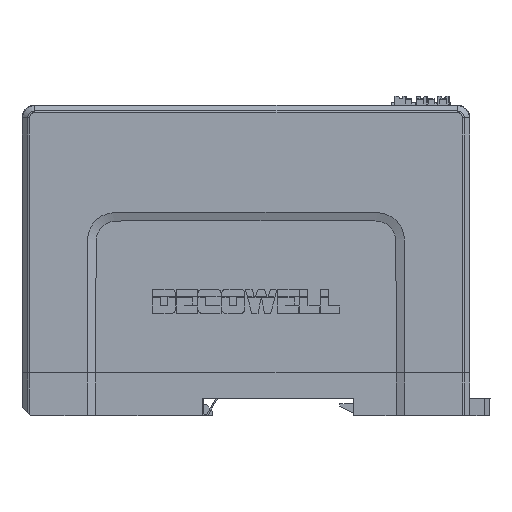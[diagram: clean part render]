
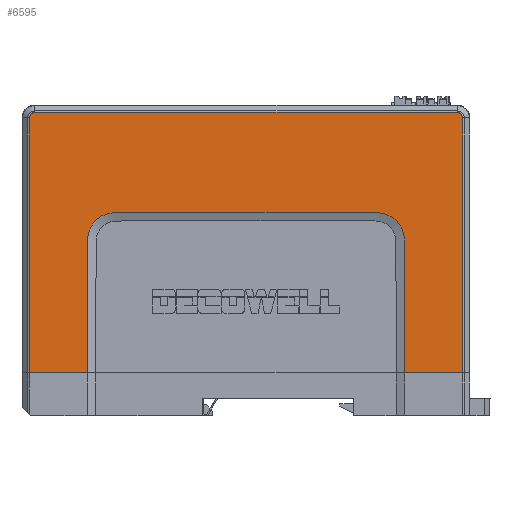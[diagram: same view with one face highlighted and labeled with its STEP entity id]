
A CAD part, left-side view. The second image highlights one B-rep face of the part: STEP entity #6595.
In plain terms, the highlighted planar face has unit normal (-1, 0, 0).
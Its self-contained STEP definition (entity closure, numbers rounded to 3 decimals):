
#6595=ADVANCED_FACE('',(#26647),#17102,.F.);
#17102=PLANE('',#216460);
#26647=FACE_OUTER_BOUND('',#37711,.T.);
#37711=EDGE_LOOP('',(#66361,#66362,#66363,#66364,#66365,#66366,#66367,#66368));
#47599=CIRCLE('',#216352,1.293);
#47602=CIRCLE('',#216357,1.293);
#50050=B_SPLINE_CURVE_WITH_KNOTS('',3,(#298760,#298761,#298762,#298763,
#298764,#298765,#298766,#298767,#298768,#298769,#298770,#298771,#298772,
#298773,#298774,#298775,#298776,#298777,#298778,#298779,#298780,#298781,
#298782,#298783,#298784,#298785,#298786,#298787,#298788,#298789,#298790,
#298791,#298792,#298793,#298794,#298795,#298796,#298797,#298798,#298799,
#298800,#298801,#298802,#298803,#298804,#298805,#298806,#298807,#298808,
#298809,#298810,#298811),.UNSPECIFIED.,.F.,.F.,(4,1,1,1,2,2,2,2,2,2,2,2,
2,1,1,1,1,1,1,2,2,2,2,2,2,2,2,2,1,1,1,4),(0.,0.246,0.25,
0.254,0.258,0.266,0.274,
0.278,0.282,0.287,0.291,
0.299,0.307,0.311,0.315,
0.319,0.681,0.685,0.689,
0.693,0.701,0.709,0.713,
0.718,0.722,0.726,0.734,
0.742,0.746,0.75,0.754,
1.),.UNSPECIFIED.);
#66361=ORIENTED_EDGE('',*,*,#138632,.T.);
#66362=ORIENTED_EDGE('',*,*,#138628,.T.);
#66363=ORIENTED_EDGE('',*,*,#138856,.T.);
#66364=ORIENTED_EDGE('',*,*,#138862,.F.);
#66365=ORIENTED_EDGE('',*,*,#138859,.T.);
#66366=ORIENTED_EDGE('',*,*,#138863,.F.);
#66367=ORIENTED_EDGE('',*,*,#138864,.T.);
#66368=ORIENTED_EDGE('',*,*,#138633,.T.);
#116161=VERTEX_POINT('',#298181);
#116162=VERTEX_POINT('',#298183);
#116163=VERTEX_POINT('',#298187);
#116165=VERTEX_POINT('',#298193);
#116322=VERTEX_POINT('',#298701);
#116325=VERTEX_POINT('',#298812);
#116326=VERTEX_POINT('',#298813);
#116327=VERTEX_POINT('',#298940);
#138628=EDGE_CURVE('',#116162,#116161,#47599,.T.);
#138632=EDGE_CURVE('',#116163,#116162,#167492,.T.);
#138633=EDGE_CURVE('',#116165,#116163,#47602,.T.);
#138856=EDGE_CURVE('',#116161,#116322,#167686,.T.);
#138859=EDGE_CURVE('',#116325,#116326,#50050,.T.);
#138862=EDGE_CURVE('',#116325,#116322,#167688,.T.);
#138863=EDGE_CURVE('',#116327,#116326,#167689,.T.);
#138864=EDGE_CURVE('',#116327,#116165,#167690,.T.);
#167492=LINE('',#298190,#193203);
#167686=LINE('',#298702,#193397);
#167688=LINE('',#298938,#193399);
#167689=LINE('',#298939,#193400);
#167690=LINE('',#298941,#193401);
#193203=VECTOR('',#240393,1.);
#193397=VECTOR('',#240791,1.);
#193399=VECTOR('',#240797,1.);
#193400=VECTOR('',#240798,1.);
#193401=VECTOR('',#240799,1.);
#216352=AXIS2_PLACEMENT_3D('',#298182,#240384,#240385);
#216357=AXIS2_PLACEMENT_3D('',#298192,#240396,#240397);
#216460=AXIS2_PLACEMENT_3D('',#298942,#240800,#240801);
#240384=DIRECTION('',(-1.,0.,0.));
#240385=DIRECTION('',(0.,0.,-1.));
#240393=DIRECTION('',(0.,1.,0.));
#240396=DIRECTION('',(-1.,0.,0.));
#240397=DIRECTION('',(0.,0.,-1.));
#240791=DIRECTION('',(0.,0.,-1.));
#240797=DIRECTION('',(0.,1.,0.));
#240798=DIRECTION('',(0.,1.,0.));
#240799=DIRECTION('',(0.,0.,1.));
#240800=DIRECTION('',(1.,0.,0.));
#240801=DIRECTION('',(0.,0.,-1.));
#298181=CARTESIAN_POINT('',(-345.489,63.503,34.525));
#298182=CARTESIAN_POINT('',(-345.489,62.21,34.525));
#298183=CARTESIAN_POINT('',(-345.489,62.21,35.818));
#298187=CARTESIAN_POINT('',(-345.489,-36.79,35.818));
#298190=CARTESIAN_POINT('',(-345.489,4.213,35.818));
#298192=CARTESIAN_POINT('',(-345.489,-36.79,34.525));
#298193=CARTESIAN_POINT('',(-345.489,-38.083,34.525));
#298701=CARTESIAN_POINT('',(-345.489,63.503,-25.225));
#298702=CARTESIAN_POINT('',(-345.489,63.503,-25.225));
#298760=CARTESIAN_POINT('',(-345.489,49.901,-35.225));
#298761=CARTESIAN_POINT('',(-345.489,49.902,-22.086));
#298762=CARTESIAN_POINT('',(-345.489,49.899,-8.696));
#298763=CARTESIAN_POINT('',(-345.489,49.904,4.851));
#298764=CARTESIAN_POINT('',(-345.489,49.888,5.64));
#298765=CARTESIAN_POINT('',(-345.489,49.841,6.138));
#298766=CARTESIAN_POINT('',(-345.489,49.745,6.894));
#298767=CARTESIAN_POINT('',(-345.489,49.644,7.392));
#298768=CARTESIAN_POINT('',(-345.489,49.348,8.363));
#298769=CARTESIAN_POINT('',(-345.489,49.152,8.834));
#298770=CARTESIAN_POINT('',(-345.489,48.774,9.494));
#298771=CARTESIAN_POINT('',(-345.489,48.634,9.706));
#298772=CARTESIAN_POINT('',(-345.489,48.327,10.11));
#298773=CARTESIAN_POINT('',(-345.489,48.16,10.302));
#298774=CARTESIAN_POINT('',(-345.489,47.802,10.661));
#298775=CARTESIAN_POINT('',(-345.489,47.61,10.828));
#298776=CARTESIAN_POINT('',(-345.489,47.206,11.134));
#298777=CARTESIAN_POINT('',(-345.489,46.994,11.274));
#298778=CARTESIAN_POINT('',(-345.489,46.333,11.652));
#298779=CARTESIAN_POINT('',(-345.489,45.862,11.848));
#298780=CARTESIAN_POINT('',(-345.489,44.892,12.145));
#298781=CARTESIAN_POINT('',(-345.489,44.393,12.246));
#298782=CARTESIAN_POINT('',(-345.489,43.637,12.342));
#298783=CARTESIAN_POINT('',(-345.489,43.14,12.389));
#298784=CARTESIAN_POINT('',(-345.489,42.35,12.404));
#298785=CARTESIAN_POINT('',(-345.489,22.622,12.4));
#298786=CARTESIAN_POINT('',(-345.489,2.798,12.4));
#298787=CARTESIAN_POINT('',(-345.489,-16.93,12.404));
#298788=CARTESIAN_POINT('',(-345.489,-17.719,12.389));
#298789=CARTESIAN_POINT('',(-345.489,-18.217,12.342));
#298790=CARTESIAN_POINT('',(-345.489,-18.973,12.246));
#298791=CARTESIAN_POINT('',(-345.489,-19.472,12.145));
#298792=CARTESIAN_POINT('',(-345.489,-20.442,11.848));
#298793=CARTESIAN_POINT('',(-345.489,-20.913,11.652));
#298794=CARTESIAN_POINT('',(-345.489,-21.573,11.274));
#298795=CARTESIAN_POINT('',(-345.489,-21.786,11.134));
#298796=CARTESIAN_POINT('',(-345.489,-22.19,10.828));
#298797=CARTESIAN_POINT('',(-345.489,-22.381,10.661));
#298798=CARTESIAN_POINT('',(-345.489,-22.74,10.302));
#298799=CARTESIAN_POINT('',(-345.489,-22.907,10.11));
#298800=CARTESIAN_POINT('',(-345.489,-23.214,9.706));
#298801=CARTESIAN_POINT('',(-345.489,-23.353,9.494));
#298802=CARTESIAN_POINT('',(-345.489,-23.731,8.834));
#298803=CARTESIAN_POINT('',(-345.489,-23.928,8.363));
#298804=CARTESIAN_POINT('',(-345.489,-24.224,7.392));
#298805=CARTESIAN_POINT('',(-345.489,-24.325,6.894));
#298806=CARTESIAN_POINT('',(-345.489,-24.421,6.138));
#298807=CARTESIAN_POINT('',(-345.489,-24.468,5.64));
#298808=CARTESIAN_POINT('',(-345.489,-24.483,4.851));
#298809=CARTESIAN_POINT('',(-345.489,-24.479,-8.696));
#298810=CARTESIAN_POINT('',(-345.489,-24.481,-22.086));
#298811=CARTESIAN_POINT('',(-345.489,-24.481,-35.225));
#298812=CARTESIAN_POINT('',(-345.489,49.901,-25.225));
#298813=CARTESIAN_POINT('',(-345.489,-24.481,-25.225));
#298938=CARTESIAN_POINT('',(-345.489,-34.165,-25.225));
#298939=CARTESIAN_POINT('',(-345.489,-34.165,-25.225));
#298940=CARTESIAN_POINT('',(-345.489,-38.083,-25.225));
#298941=CARTESIAN_POINT('',(-345.489,-38.083,34.525));
#298942=CARTESIAN_POINT('',(-345.489,-34.165,-22.4));
